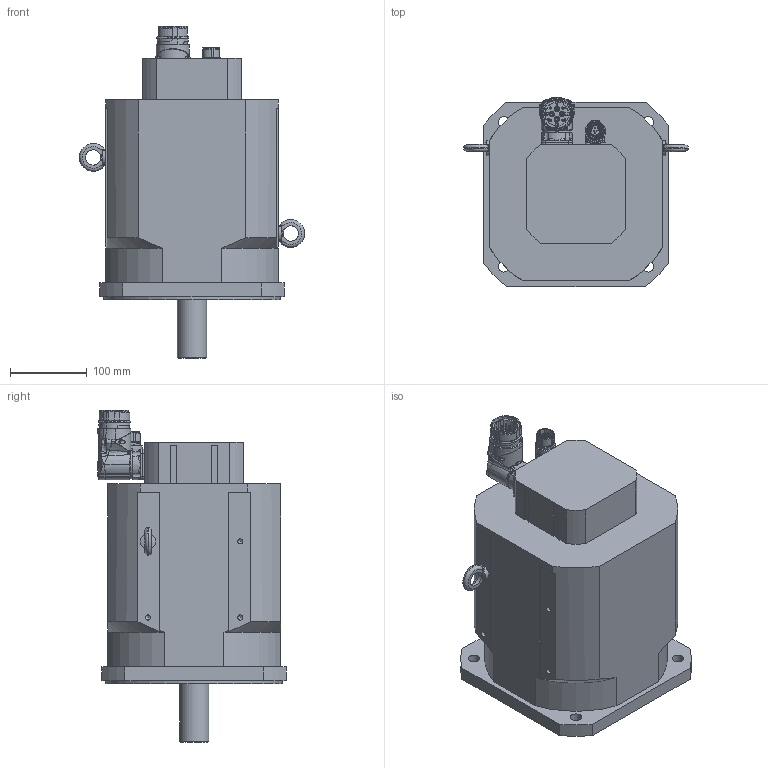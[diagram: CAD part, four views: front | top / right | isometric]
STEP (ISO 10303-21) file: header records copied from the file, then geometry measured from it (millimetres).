
FILE_DESCRIPTION(/* description */ (''),/* implementation_level */ '2;1');
FILE_NAME(/* name */ 'C:\PDF_output\T8000 00 Z_4000_S2_8P_12P.stp',/* time_stamp */ '2018-02-28T09:18:36+01:00',/* author */ ('oslejsek'),/* organization */ (''),/* preprocessor_version */ 'ST-DEVELOPER v17',/* originating_system */ 'Autodesk Inventor 2018',/* authorisation */ '');
FILE_SCHEMA (('AUTOMOTIVE_DESIGN { 1 0 10303 214 3 1 1 }'));
Products named in the file (7): T8000 00 Z_4000_S2_8P_12P; T8000 00_4000; 125766; CED_0051_8-polig_mit Kontakten; 125284; 118657; DIN 580 - M8 x 13
Assembly tree (7 placements, depth 3):
  T8000 00 Z_4000_S2_8P_12P
    T8000 00_4000
    125766
    CED_0051_8-polig_mit Kontakten
      125284
      118657
    DIN 580 - M8 x 13  x2
Bounding box: 293 x 245.6 x 432 mm (x, y, z)
Volume: 13189267 mm3; surface area: 412435.4 mm2
Topology: 6 solids, 6 shells, 1416 faces, 3750 edges, 2422 vertices
Faces by surface type: plane 453, bspline 387, cylinder 324, cone 148, torus 83, sphere 21
Full cylindrical faces by diameter (mm): 1 x12, 1.18 x12, 1.2 x12, 2 x4, 2.7 x4, 3.6 x5, 4 x1, 4.5 x1, 5.4 x1, 5.9 x1, 6.647 x8, 7 x2, 8 x5, 8.5 x1, 10.106 x1, 15 x4, 15.2 x1, 17.4 x1, 19.1 x1, 19.8 x1, 20 x3, 21.15 x2, 22 x1, 25.5 x1, 29 x1, 32.868 x1, 37.6 x2, 38 x1, 45 x1, 230 x1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
Entity records: 60568 total; most frequent: CARTESIAN_POINT 25847, ORIENTED_EDGE 7312, DIRECTION 6488, EDGE_CURVE 3656, AXIS2_PLACEMENT_3D 2608, VERTEX_POINT 2386, EDGE_LOOP 1530, FACE_OUTER_BOUND 1391
